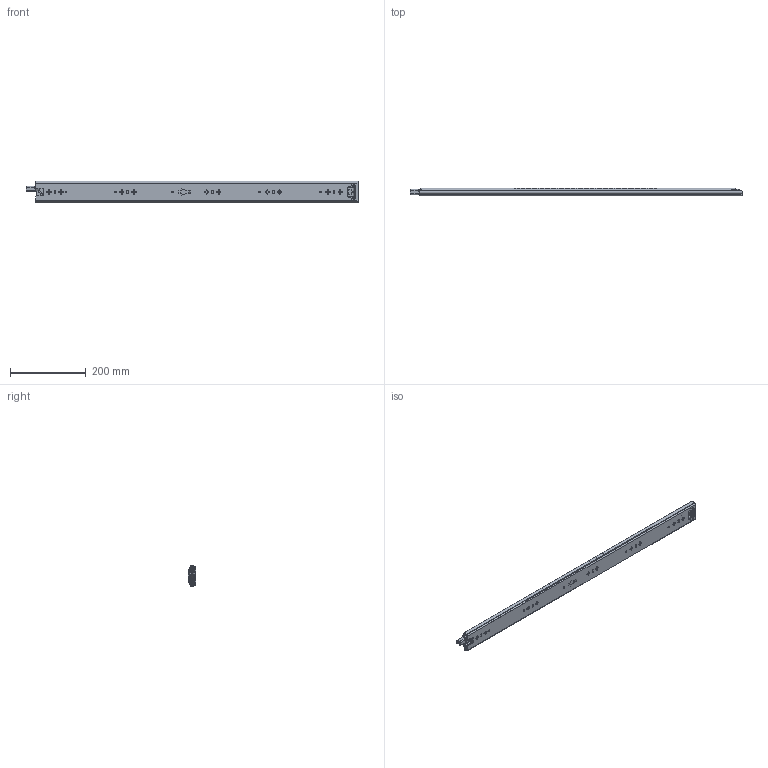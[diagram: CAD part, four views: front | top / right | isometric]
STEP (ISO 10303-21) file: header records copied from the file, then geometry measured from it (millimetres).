
FILE_DESCRIPTION((''),'2;1');
FILE_NAME('KP-57-01ZUZHUANGTU-34YOU_ASM','2023-04-03T',('jishu015'),(''),'PRO/ENGINEER BY PARAMETRIC TECHNOLOGY CORPORATION, 2010280','PRO/ENGINEER BY PARAMETRIC TECHNOLOGY CORPORATION, 2010280','');
FILE_SCHEMA(('CONFIG_CONTROL_DESIGN'));
Products named in the file (21): KP-57-01WEIKE-18__________; 1057WEIJIAO__________; WAIKE_________ASM; KP-57-01ZHONGGUI-18__________; ZHONGGUIPEIJIAN-11________; ZHONGGUISUOKOU-11________; KP-57-01ZHONGGUI-18___________ASM; 1057XIAOZHUJIA__________; 1057-5-6GANZHU__________; 1057XIAOZHUJIA-14GE___________ASM; KP-57-01NEIGUI-18__________; PJ-57-08________; DIAOPIAN-11________; 50XINSUOKOU-1________; 1053-3SBANJI122______; JIAO11______; KP-57-01NEIGUI-18___________ASM; 1053ZHUTIAO-175______________; 53-5-6GANZHU______________; 1053ZHUTIAO-175MM_________ASM; KP-57-01ZUZHUANGTU-34YOU_ASM
Assembly tree (94 placements, depth 3):
  KP-57-01ZUZHUANGTU-34YOU_ASM
    WAIKE_________ASM
      KP-57-01WEIKE-18__________
      1057WEIJIAO__________
    KP-57-01ZHONGGUI-18___________ASM
      KP-57-01ZHONGGUI-18__________
      ZHONGGUIPEIJIAN-11________
      ZHONGGUISUOKOU-11________
    1057XIAOZHUJIA-14GE___________ASM
      1057XIAOZHUJIA__________
      1057-5-6GANZHU__________  x60
    KP-57-01NEIGUI-18___________ASM
      KP-57-01NEIGUI-18__________
      PJ-57-08________
      DIAOPIAN-11________
      50XINSUOKOU-1________
      1053-3SBANJI122______
      JIAO11______
    1053ZHUTIAO-175MM_________ASM  x2
      1053ZHUTIAO-175______________
      53-5-6GANZHU______________
Bounding box: 875.45 x 19 x 57.67 mm (x, y, z)
Volume: 371886.6 mm3; surface area: 405637 mm2
Topology: 106 solids, 106 shells, 2682 faces, 7770 edges, 4857 vertices
Faces by surface type: cylinder 1159, plane 1087, sphere 191, bspline 119, cone 84, extrusion 23, torus 19
Entity records: 86732 total; most frequent: CARTESIAN_POINT 21354, ORIENTED_EDGE 13864, DIRECTION 13448, EDGE_CURVE 6932, AXIS2_PLACEMENT_3D 4636, VERTEX_POINT 4485, VECTOR 4176, LINE 4153
